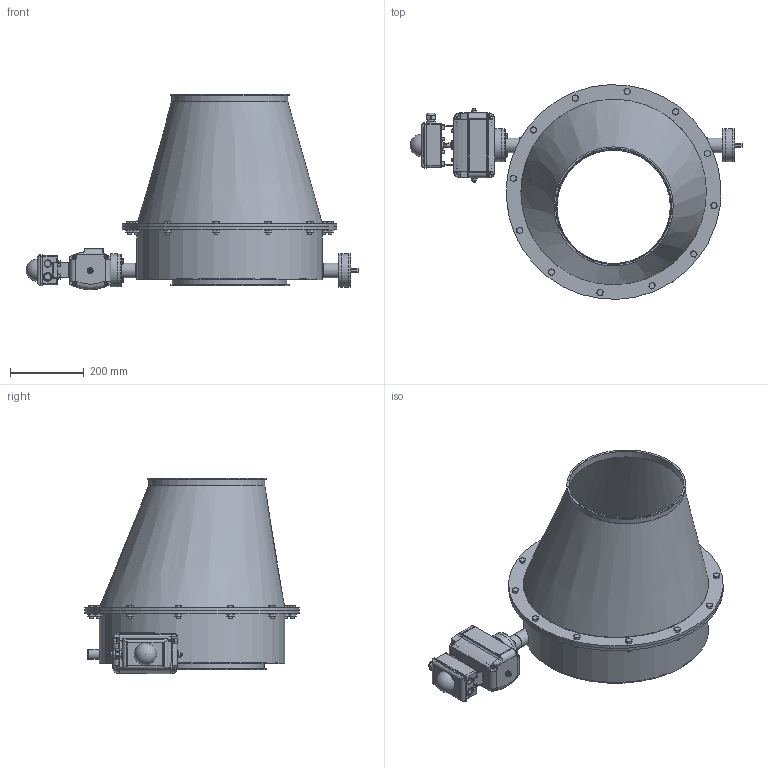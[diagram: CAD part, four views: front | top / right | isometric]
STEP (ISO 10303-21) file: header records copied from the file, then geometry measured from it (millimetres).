
FILE_DESCRIPTION((''),'2;1');
FILE_NAME('U:\Wolfgang\Marcel-3D\fertig\Kapitel 8\3121218.stp','2012-01-13T11:19:38',('iwienholt'),(''),'Autodesk Inventor 2010','Autodesk Inventor 2010','');
FILE_SCHEMA(('AUTOMOTIVE_DESIGN { 1 0 10303 214 1 1 1 1 }'));
Length unit declared in the file: millimetre
Products named in the file (27): 3121218; 3121218-1; 05081301; DIN EN ISO 4018 M10x30; DIN 555 - ersetzt durch DIN EN 24034 M10; wellenendeD20; Buchse D20 90-50; LagerdeckelD20; PendelkugellagerD20; EndstückD20; WellenendeD20 mit Antrieb; DIN EN ISO 4018 M8x35; Pneumatischer SchwenkantriebS85D-2; Body; roter Verschluss; A1 Schwenkantrieb S85D; Body S085D; DIN EN ISO 4018 M5x10; DIN 125-1 A A 13; End Cap L85; End Cap R85; DIN 125-1 A A 8,4; DIN 916 M8  x  40; DIN 555 - ersetzt durch DIN EN 24034 M8; DIN EN ISO 4762 M6 x 12; Halterung; Deckel2
Assembly tree (73 placements, depth 5):
  3121218
    3121218-1
    05081301  x2
    DIN EN ISO 4018 M10x30  x12
    DIN 555 - ersetzt durch DIN EN 24034 M10  x12
    wellenendeD20
      Buchse D20 90-50
      LagerdeckelD20
      PendelkugellagerD20
      EndstückD20
    WellenendeD20 mit Antrieb
      Buchse D20 90-50
      PendelkugellagerD20
      DIN EN ISO 4018 M8x35  x4
      Pneumatischer SchwenkantriebS85D-2
        Body
        roter Verschluss
        A1 Schwenkantrieb S85D
          Body S085D
          DIN EN ISO 4018 M5x10  x4
          DIN 125-1 A A 13  x2
          End Cap L85
          End Cap R85
          DIN 125-1 A A 8,4  x2
          DIN 916 M8  x  40  x2
          DIN 555 - ersetzt durch DIN EN 24034 M8  x2
          DIN EN ISO 4762 M6 x 12  x8
        Halterung  x2
        DIN EN ISO 4018 M5x10  x4
        Deckel2
Bounding box: 902.5 x 583.53 x 531.23 mm (x, y, z)
Volume: 5499485.8 mm3; surface area: 2496155.8 mm2
Topology: 71 solids, 71 shells, 1396 faces, 3176 edges, 2001 vertices
Faces by surface type: plane 702, cone 262, cylinder 219, bspline 173, torus 39, sphere 1
Full cylindrical faces by diameter (mm): 3.242 x4, 5 x10, 6 x8, 6.647 x4, 8 x10, 8.376 x1, 8.4 x2, 10 x20, 11.9 x2, 12.5 x1, 13 x5, 14 x1, 16 x2, 17 x1, 17.79 x2, 18 x3, 20.5 x2, 22 x1, 22.4 x1, 23 x2, 24 x3, 26.4 x1, 28.5 x1, 30 x3, 36 x2, 40 x5, 47 x2, 90 x5, 312 x1, 316 x1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
Entity records: 26903 total; most frequent: CARTESIAN_POINT 11142, DIRECTION 3102, ORIENTED_EDGE 2762, EDGE_CURVE 1381, AXIS2_PLACEMENT_3D 1218, EDGE_LOOP 999, VERTEX_POINT 972, FACE_OUTER_BOUND 680
